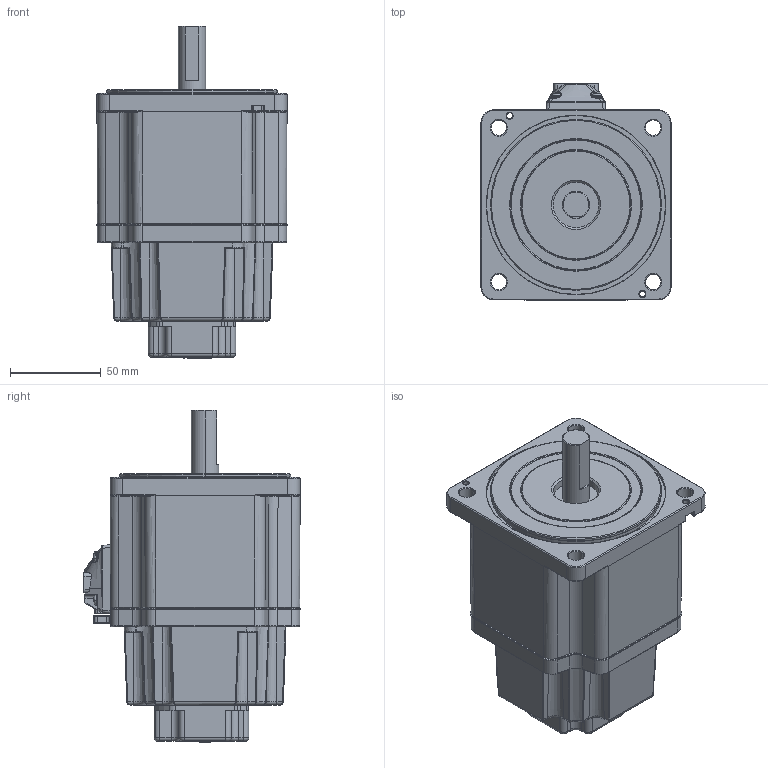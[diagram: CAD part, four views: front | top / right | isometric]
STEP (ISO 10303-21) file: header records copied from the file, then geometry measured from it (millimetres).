
FILE_DESCRIPTION (( 'STEP AP214' ), '1' );
FILE_NAME ('X Series 200(400)w_brake_encoder_S.STEP', '2023-08-16T06:35:16', ( '' ), ( '' ), 'SwSTEP 2.0', 'SolidWorks 2022', '' );
FILE_SCHEMA (( 'AUTOMOTIVE_DESIGN' ));
Length unit declared in the file: millimetre
Products named in the file (13): M4xL12 PH.stp.STEP; M3xL12 PH.stp.STEP; X Series 200(400)w_brake_encoder_S; ACDC_200_400W.stp.STEP; BRAKECOVER(90).stp.STEP; GASKET-ST01 (2).stp.STEP; ENCODER COVER ASS''Y; BRACKET-ST01.stp.STEP; LEAD BUSH.stp; X Series 200(400)w_brake_S.STEP; M-COVER-ST01.stp.STEP; M-CASE-RE01ST01.stp.STEP; ENCODER COVER
Assembly tree (18 placements, depth 4):
  X Series 200(400)w_brake_encoder_S
    X Series 200(400)w_brake_S.STEP
      ACDC_200_400W.stp.STEP
        M-CASE-RE01ST01.stp.STEP
        M-COVER-ST01.stp.STEP
        BRACKET-ST01.stp.STEP
        GASKET-ST01 (2).stp.STEP
        M4xL12 PH.stp.STEP  x4
        M3xL12 PH.stp.STEP  x4
      BRAKECOVER(90).stp.STEP
    ENCODER COVER ASS''Y
      LEAD BUSH.stp
      ENCODER COVER
Bounding box: 104.5 x 118.87 x 182.5 mm (x, y, z)
Volume: 866807.9 mm3; surface area: 142821.9 mm2
Topology: 15 solids, 20 shells, 2583 faces, 6760 edges, 4239 vertices
Faces by surface type: cylinder 1193, plane 687, bspline 317, torus 206, cone 152, sphere 28
Entity records: 86306 total; most frequent: CARTESIAN_POINT 37881, ORIENTED_EDGE 10250, DIRECTION 9263, EDGE_CURVE 5125, AXIS2_PLACEMENT_3D 3452, VERTEX_POINT 3188, LINE 2359, VECTOR 2359
